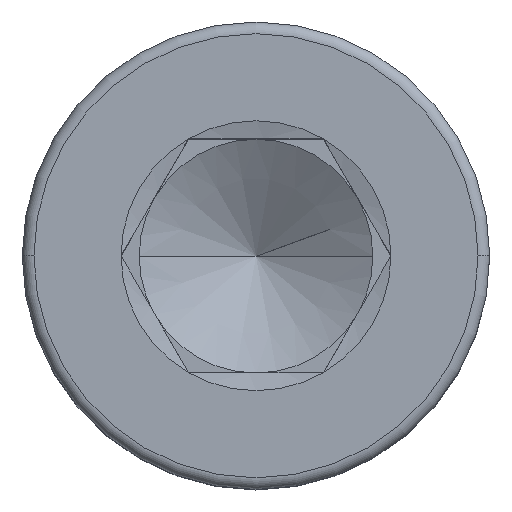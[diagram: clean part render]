
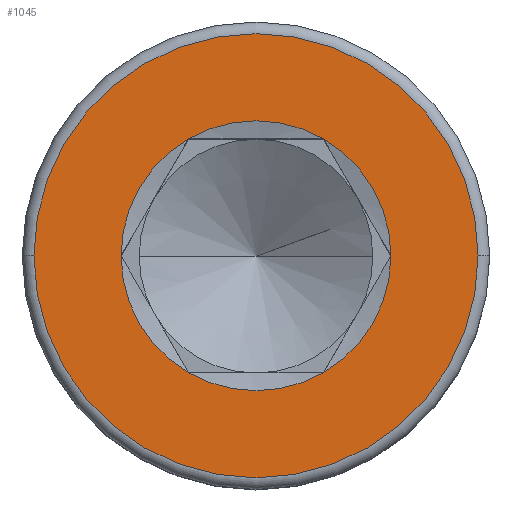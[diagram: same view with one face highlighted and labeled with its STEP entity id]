
A CAD part, top view. The second image highlights one B-rep face of the part: STEP entity #1045.
In plain terms, the highlighted planar face has unit normal (0, 0, 1).
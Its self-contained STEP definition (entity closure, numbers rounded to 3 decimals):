
#45 = AXIS2_PLACEMENT_3D ( 'NONE', #1491, #1788, #1200 ) ;
#71 = DIRECTION ( 'NONE',  ( 0., 0., 1. ) ) ;
#75 = CARTESIAN_POINT ( 'NONE',  ( -3.8, 0., 5. ) ) ;
#80 = AXIS2_PLACEMENT_3D ( 'NONE', #1224, #613, #1341 ) ;
#196 = DIRECTION ( 'NONE',  ( 0., 0., 1. ) ) ;
#206 = CIRCLE ( 'NONE', #750, 3.8 ) ;
#237 = DIRECTION ( 'NONE',  ( 1., 0., 0. ) ) ;
#255 = ORIENTED_EDGE ( 'NONE', *, *, #1445, .T. ) ;
#275 = CARTESIAN_POINT ( 'NONE',  ( 0., 0., 5. ) ) ;
#329 = ORIENTED_EDGE ( 'NONE', *, *, #759, .F. ) ;
#363 = ORIENTED_EDGE ( 'NONE', *, *, #638, .F. ) ;
#412 = CIRCLE ( 'NONE', #80, 2.309 ) ;
#426 = EDGE_LOOP ( 'NONE', ( #255, #791 ) ) ;
#434 = AXIS2_PLACEMENT_3D ( 'NONE', #930, #1800, #922 ) ;
#440 = EDGE_CURVE ( 'NONE', #1271, #659, #1476, .T. ) ;
#478 = FACE_BOUND ( 'NONE', #1417, .T. ) ;
#480 = DIRECTION ( 'NONE',  ( 0., 0., 1. ) ) ;
#519 = CARTESIAN_POINT ( 'NONE',  ( 2.309, 0., 5. ) ) ;
#524 = CIRCLE ( 'NONE', #1150, 2.309 ) ;
#529 = CARTESIAN_POINT ( 'NONE',  ( 0., 0., 5. ) ) ;
#553 = EDGE_CURVE ( 'NONE', #659, #649, #1028, .T. ) ;
#554 = VERTEX_POINT ( 'NONE', #643 ) ;
#576 = EDGE_CURVE ( 'NONE', #649, #1317, #524, .T. ) ;
#613 = DIRECTION ( 'NONE',  ( 0., 0., 1. ) ) ;
#626 = CIRCLE ( 'NONE', #997, 3.8 ) ;
#637 = FACE_OUTER_BOUND ( 'NONE', #426, .T. ) ;
#638 = EDGE_CURVE ( 'NONE', #1097, #1122, #1604, .T. ) ;
#643 = CARTESIAN_POINT ( 'NONE',  ( 3.8, 0., 5. ) ) ;
#649 = VERTEX_POINT ( 'NONE', #1717 ) ;
#659 = VERTEX_POINT ( 'NONE', #693 ) ;
#681 = AXIS2_PLACEMENT_3D ( 'NONE', #1731, #1010, #237 ) ;
#693 = CARTESIAN_POINT ( 'NONE',  ( -2.309, 0., 5. ) ) ;
#722 = ORIENTED_EDGE ( 'NONE', *, *, #1745, .F. ) ;
#750 = AXIS2_PLACEMENT_3D ( 'NONE', #529, #196, #1352 ) ;
#759 = EDGE_CURVE ( 'NONE', #1317, #1097, #1508, .T. ) ;
#791 = ORIENTED_EDGE ( 'NONE', *, *, #1079, .T. ) ;
#793 = PLANE ( 'NONE',  #1062 ) ;
#838 = DIRECTION ( 'NONE',  ( 0., 0., 1. ) ) ;
#922 = DIRECTION ( 'NONE',  ( 1., 0., 0. ) ) ;
#930 = CARTESIAN_POINT ( 'NONE',  ( 0., 0., 5. ) ) ;
#997 = AXIS2_PLACEMENT_3D ( 'NONE', #1705, #1714, #1694 ) ;
#1010 = DIRECTION ( 'NONE',  ( 0., 0., 1. ) ) ;
#1028 = CIRCLE ( 'NONE', #434, 2.309 ) ;
#1045 = ADVANCED_FACE ( 'NONE', ( #637, #478 ), #793, .T. ) ;
#1062 = AXIS2_PLACEMENT_3D ( 'NONE', #1076, #71, #1229 ) ;
#1076 = CARTESIAN_POINT ( 'NONE',  ( 0., 0., 5. ) ) ;
#1079 = EDGE_CURVE ( 'NONE', #1850, #554, #626, .T. ) ;
#1097 = VERTEX_POINT ( 'NONE', #519 ) ;
#1122 = VERTEX_POINT ( 'NONE', #1542 ) ;
#1137 = ORIENTED_EDGE ( 'NONE', *, *, #576, .F. ) ;
#1150 = AXIS2_PLACEMENT_3D ( 'NONE', #1806, #480, #1534 ) ;
#1160 = CARTESIAN_POINT ( 'NONE',  ( -1.155, 2., 5. ) ) ;
#1200 = DIRECTION ( 'NONE',  ( 1., 0., 0. ) ) ;
#1224 = CARTESIAN_POINT ( 'NONE',  ( 0., 0., 5. ) ) ;
#1229 = DIRECTION ( 'NONE',  ( 1., 0., 0. ) ) ;
#1271 = VERTEX_POINT ( 'NONE', #1160 ) ;
#1317 = VERTEX_POINT ( 'NONE', #1593 ) ;
#1341 = DIRECTION ( 'NONE',  ( 1., 0., 0. ) ) ;
#1352 = DIRECTION ( 'NONE',  ( 1., 0., 0. ) ) ;
#1417 = EDGE_LOOP ( 'NONE', ( #363, #329, #1137, #1828, #1873, #722 ) ) ;
#1423 = DIRECTION ( 'NONE',  ( 1., 0., 0. ) ) ;
#1445 = EDGE_CURVE ( 'NONE', #554, #1850, #206, .T. ) ;
#1476 = CIRCLE ( 'NONE', #45, 2.309 ) ;
#1491 = CARTESIAN_POINT ( 'NONE',  ( 0., 0., 5. ) ) ;
#1508 = CIRCLE ( 'NONE', #681, 2.309 ) ;
#1534 = DIRECTION ( 'NONE',  ( 1., 0., 0. ) ) ;
#1542 = CARTESIAN_POINT ( 'NONE',  ( 1.155, 2., 5. ) ) ;
#1593 = CARTESIAN_POINT ( 'NONE',  ( 1.155, -2., 5. ) ) ;
#1604 = CIRCLE ( 'NONE', #1662, 2.309 ) ;
#1662 = AXIS2_PLACEMENT_3D ( 'NONE', #275, #838, #1423 ) ;
#1694 = DIRECTION ( 'NONE',  ( 1., 0., 0. ) ) ;
#1705 = CARTESIAN_POINT ( 'NONE',  ( 0., 0., 5. ) ) ;
#1714 = DIRECTION ( 'NONE',  ( 0., 0., 1. ) ) ;
#1717 = CARTESIAN_POINT ( 'NONE',  ( -1.155, -2., 5. ) ) ;
#1731 = CARTESIAN_POINT ( 'NONE',  ( 0., 0., 5. ) ) ;
#1745 = EDGE_CURVE ( 'NONE', #1122, #1271, #412, .T. ) ;
#1788 = DIRECTION ( 'NONE',  ( 0., 0., 1. ) ) ;
#1800 = DIRECTION ( 'NONE',  ( 0., 0., 1. ) ) ;
#1806 = CARTESIAN_POINT ( 'NONE',  ( 0., 0., 5. ) ) ;
#1828 = ORIENTED_EDGE ( 'NONE', *, *, #553, .F. ) ;
#1850 = VERTEX_POINT ( 'NONE', #75 ) ;
#1873 = ORIENTED_EDGE ( 'NONE', *, *, #440, .F. ) ;
